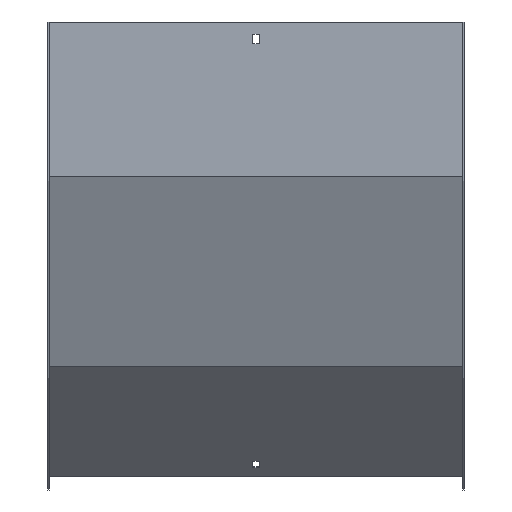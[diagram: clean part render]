
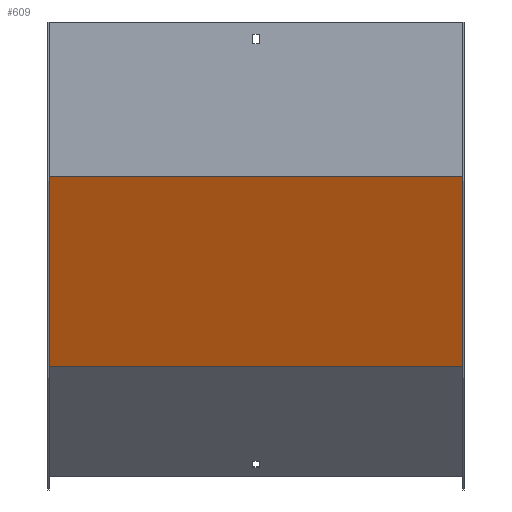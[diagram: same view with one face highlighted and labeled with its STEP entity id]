
A CAD part, front view. The second image highlights one B-rep face of the part: STEP entity #609.
In plain terms, the highlighted planar face has unit normal (0, -0.924, -0.383).
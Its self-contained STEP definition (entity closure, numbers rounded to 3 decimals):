
#46 = DIRECTION ( 'NONE',  ( 0., 0.924, 0.383 ) ) ;
#56 = FACE_OUTER_BOUND ( 'NONE', #499, .T. ) ;
#71 = DIRECTION ( 'NONE',  ( 0., 0.383, -0.924 ) ) ;
#76 = CARTESIAN_POINT ( 'NONE',  ( 200., -1.5, -150.098 ) ) ;
#104 = DIRECTION ( 'NONE',  ( -1., 0., 0. ) ) ;
#105 = AXIS2_PLACEMENT_3D ( 'NONE', #831, #46, #380 ) ;
#117 = PLANE ( 'NONE',  #105 ) ;
#120 = LINE ( 'NONE', #451, #849 ) ;
#143 = CARTESIAN_POINT ( 'NONE',  ( 200., 74.691, -334.04 ) ) ;
#145 = VECTOR ( 'NONE', #721, 1000. ) ;
#208 = EDGE_CURVE ( 'NONE', #243, #349, #544, .T. ) ;
#243 = VERTEX_POINT ( 'NONE', #76 ) ;
#289 = EDGE_CURVE ( 'NONE', #349, #746, #529, .T. ) ;
#324 = CARTESIAN_POINT ( 'NONE',  ( -200., 74.691, -334.04 ) ) ;
#326 = ORIENTED_EDGE ( 'NONE', *, *, #208, .F. ) ;
#349 = VERTEX_POINT ( 'NONE', #143 ) ;
#380 = DIRECTION ( 'NONE',  ( 0., -0.383, 0.924 ) ) ;
#404 = VECTOR ( 'NONE', #684, 1000. ) ;
#451 = CARTESIAN_POINT ( 'NONE',  ( -200., -54.348, -22.512 ) ) ;
#471 = VERTEX_POINT ( 'NONE', #683 ) ;
#493 = EDGE_CURVE ( 'NONE', #243, #471, #506, .T. ) ;
#499 = EDGE_LOOP ( 'NONE', ( #720, #676, #326, #541 ) ) ;
#506 = LINE ( 'NONE', #763, #785 ) ;
#529 = LINE ( 'NONE', #735, #145 ) ;
#541 = ORIENTED_EDGE ( 'NONE', *, *, #493, .T. ) ;
#544 = LINE ( 'NONE', #690, #404 ) ;
#609 = ADVANCED_FACE ( 'NONE', ( #56 ), #117, .F. ) ;
#669 = EDGE_CURVE ( 'NONE', #471, #746, #120, .T. ) ;
#676 = ORIENTED_EDGE ( 'NONE', *, *, #289, .F. ) ;
#683 = CARTESIAN_POINT ( 'NONE',  ( -200., -1.5, -150.098 ) ) ;
#684 = DIRECTION ( 'NONE',  ( 0., 0.383, -0.924 ) ) ;
#690 = CARTESIAN_POINT ( 'NONE',  ( 200., -54.348, -22.512 ) ) ;
#720 = ORIENTED_EDGE ( 'NONE', *, *, #669, .T. ) ;
#721 = DIRECTION ( 'NONE',  ( -1., 0., 0. ) ) ;
#735 = CARTESIAN_POINT ( 'NONE',  ( 201.5, 74.691, -334.04 ) ) ;
#746 = VERTEX_POINT ( 'NONE', #324 ) ;
#763 = CARTESIAN_POINT ( 'NONE',  ( 201.5, -1.5, -150.098 ) ) ;
#785 = VECTOR ( 'NONE', #104, 1000. ) ;
#831 = CARTESIAN_POINT ( 'NONE',  ( 201.5, -1.386, -150.374 ) ) ;
#849 = VECTOR ( 'NONE', #71, 1000. ) ;
